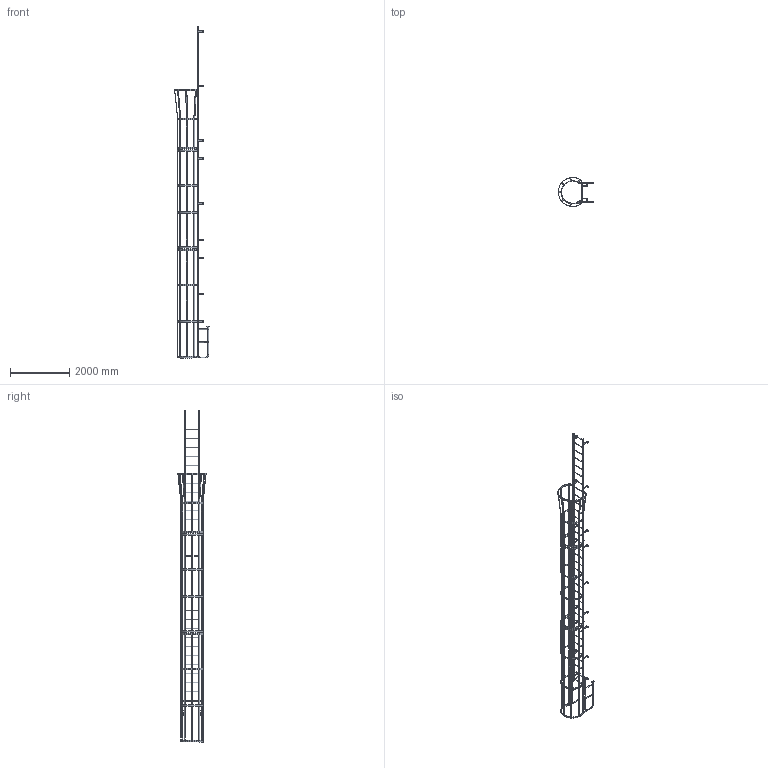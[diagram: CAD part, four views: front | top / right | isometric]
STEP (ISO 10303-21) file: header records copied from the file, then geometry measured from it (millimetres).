
FILE_DESCRIPTION(/* description */ (''),/* implementation_level */ '2;1');
FILE_NAME(/* name */ 'P:\MIKEL & KAREN\D0570196-20 F34WC SIMPLIFIED PART.stp',/* time_stamp */ '2018-07-03T09:01:40-04:00',/* author */ ('stephanie'),/* organization */ (''),/* preprocessor_version */ 'ST-DEVELOPER v16.1',/* originating_system */ 'Autodesk Inventor 2016',/* authorisation */ '');
FILE_SCHEMA (('AUTOMOTIVE_DESIGN { 1 0 10303 214 3 1 1 }'));
Length unit declared in the file: centimetre
Products named in the file (1): D0570196-20 F34WC SIMPLIFIED PART
Bounding box: 1195.62 x 977.88 x 11179.17 mm (x, y, z)
Volume: 37450769 mm3; surface area: 14192535.1 mm2
Topology: 51 solids, 51 shells, 1141 faces, 3429 edges, 2220 vertices
Faces by surface type: plane 740, cylinder 393, torus 8
Full cylindrical faces by diameter (mm): 10.319 x4, 14.287 x22, 19.05 x34, 22.098 x10, 22.225 x68, 25.4 x10
Entity records: 39118 total; most frequent: CARTESIAN_POINT 6843, ORIENTED_EDGE 6534, DIRECTION 6387, EDGE_CURVE 3177, LINE 2219, VECTOR 2219, VERTEX_POINT 2124, AXIS2_PLACEMENT_3D 2084
